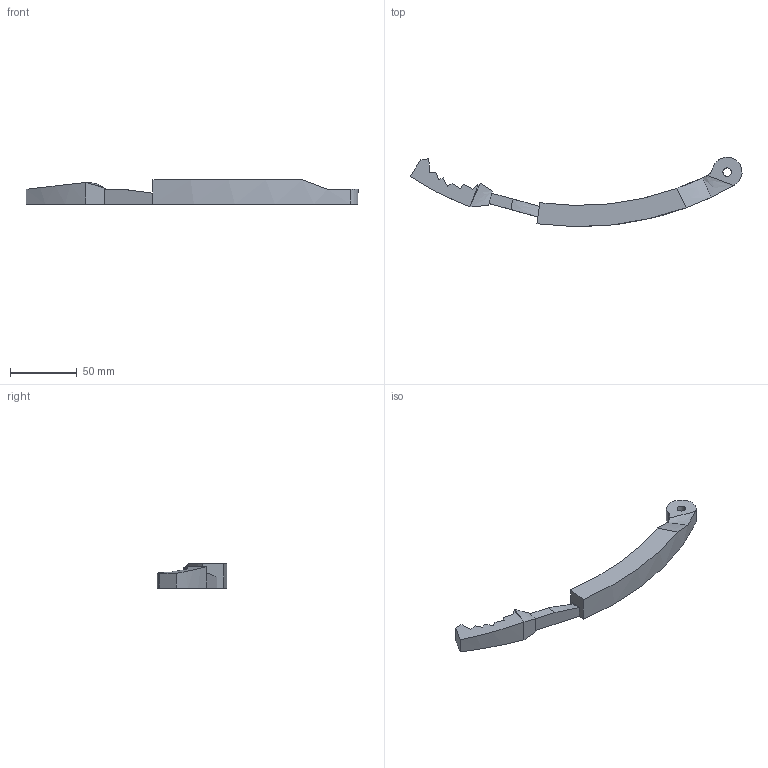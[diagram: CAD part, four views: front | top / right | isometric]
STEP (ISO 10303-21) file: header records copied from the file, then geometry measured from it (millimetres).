
FILE_DESCRIPTION(/* description */ ('Alibre Inc.'),/* implementation_level */ '2;1');
FILE_NAME(/* name */ 'export0',/* time_stamp */ '2016-03-13T20:27:23-04:00',/* author */ (''),/* organization */ (''),/* preprocessor_version */ 'ST-DEVELOPER v14',/* originating_system */ 'Alibre',/* authorisation */ '');
FILE_SCHEMA (('CONFIG_CONTROL_DESIGN'));
Length unit declared in the file: millimetre
Products named in the file (1): Utility Arm - Arm
Bounding box: 248.23 x 51.92 x 18.26 mm (x, y, z)
Volume: 54822.6 mm3; surface area: 16448.1 mm2
Topology: 1 solids, 1 shells, 65 faces, 170 edges, 109 vertices
Faces by surface type: plane 45, cylinder 11, bspline 5, cone 4
Full cylindrical faces by diameter (mm): 3.175 x3
Entity records: 2024 total; most frequent: CARTESIAN_POINT 455, ORIENTED_EDGE 334, DIRECTION 263, EDGE_CURVE 167, VECTOR 116, LINE 116, VERTEX_POINT 109, AXIS2_PLACEMENT_3D 96
